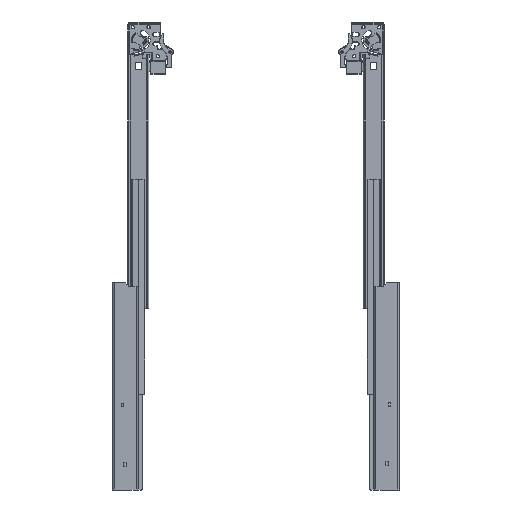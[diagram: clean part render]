
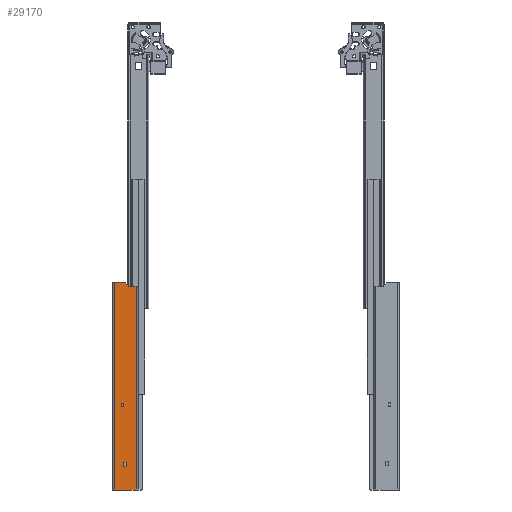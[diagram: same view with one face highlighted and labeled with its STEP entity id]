
A CAD part, front view. The second image highlights one B-rep face of the part: STEP entity #29170.
In plain terms, the highlighted planar face has unit normal (0, -1, 0).
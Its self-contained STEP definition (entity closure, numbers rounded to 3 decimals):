
#803=FACE_BOUND('',#5961,.T.);
#804=FACE_BOUND('',#5962,.T.);
#1123=CIRCLE('',#31069,2.);
#1125=CIRCLE('',#31073,2.);
#4092=FACE_OUTER_BOUND('',#5960,.T.);
#5960=EDGE_LOOP('',(#18655,#18656,#18657,#18658,#18659,#18660,#18661,#18662));
#5961=EDGE_LOOP('',(#18663,#18664,#18665,#18666));
#5962=EDGE_LOOP('',(#18667,#18668,#18669,#18670));
#8115=LINE('',#45056,#10025);
#8119=LINE('',#45064,#10029);
#8122=LINE('',#45070,#10032);
#8125=LINE('',#45075,#10035);
#8127=LINE('',#45081,#10037);
#8131=LINE('',#45089,#10041);
#8134=LINE('',#45095,#10044);
#8137=LINE('',#45100,#10047);
#8157=LINE('',#45160,#10067);
#8173=LINE('',#45207,#10083);
#8176=LINE('',#45217,#10086);
#8178=LINE('',#45223,#10088);
#8179=LINE('',#45225,#10089);
#8180=LINE('',#45226,#10090);
#10025=VECTOR('',#35080,5.);
#10029=VECTOR('',#35086,3.);
#10032=VECTOR('',#35091,5.);
#10035=VECTOR('',#35096,3.);
#10037=VECTOR('',#35102,6.);
#10041=VECTOR('',#35108,3.5);
#10044=VECTOR('',#35113,6.);
#10047=VECTOR('',#35118,3.5);
#10067=VECTOR('',#35174,5.414);
#10083=VECTOR('',#35216,9.672);
#10086=VECTOR('',#35225,285.);
#10088=VECTOR('',#35231,14.172);
#10089=VECTOR('',#35232,290.);
#10090=VECTOR('',#35233,30.5);
#11935=VERTEX_POINT('',#45054);
#11936=VERTEX_POINT('',#45055);
#11939=VERTEX_POINT('',#45063);
#11941=VERTEX_POINT('',#45069);
#11943=VERTEX_POINT('',#45079);
#11944=VERTEX_POINT('',#45080);
#11947=VERTEX_POINT('',#45088);
#11949=VERTEX_POINT('',#45094);
#11969=VERTEX_POINT('',#45150);
#11970=VERTEX_POINT('',#45152);
#11972=VERTEX_POINT('',#45158);
#11974=VERTEX_POINT('',#45164);
#11990=VERTEX_POINT('',#45206);
#11994=VERTEX_POINT('',#45216);
#11996=VERTEX_POINT('',#45222);
#11997=VERTEX_POINT('',#45224);
#14387=EDGE_CURVE('',#11935,#11936,#8115,.T.);
#14391=EDGE_CURVE('',#11936,#11939,#8119,.T.);
#14394=EDGE_CURVE('',#11939,#11941,#8122,.T.);
#14397=EDGE_CURVE('',#11941,#11935,#8125,.T.);
#14399=EDGE_CURVE('',#11943,#11944,#8127,.T.);
#14403=EDGE_CURVE('',#11944,#11947,#8131,.T.);
#14406=EDGE_CURVE('',#11947,#11949,#8134,.T.);
#14409=EDGE_CURVE('',#11949,#11943,#8137,.T.);
#14434=EDGE_CURVE('',#11969,#11970,#1123,.T.);
#14438=EDGE_CURVE('',#11969,#11972,#8157,.T.);
#14441=EDGE_CURVE('',#11974,#11972,#1125,.T.);
#14461=EDGE_CURVE('',#11990,#11970,#8173,.T.);
#14466=EDGE_CURVE('',#11990,#11994,#8176,.T.);
#14469=EDGE_CURVE('',#11996,#11974,#8178,.T.);
#14470=EDGE_CURVE('',#11996,#11997,#8179,.T.);
#14471=EDGE_CURVE('',#11994,#11997,#8180,.T.);
#18655=ORIENTED_EDGE('',*,*,#14441,.F.);
#18656=ORIENTED_EDGE('',*,*,#14469,.F.);
#18657=ORIENTED_EDGE('',*,*,#14470,.T.);
#18658=ORIENTED_EDGE('',*,*,#14471,.F.);
#18659=ORIENTED_EDGE('',*,*,#14466,.F.);
#18660=ORIENTED_EDGE('',*,*,#14461,.T.);
#18661=ORIENTED_EDGE('',*,*,#14434,.F.);
#18662=ORIENTED_EDGE('',*,*,#14438,.T.);
#18663=ORIENTED_EDGE('',*,*,#14387,.T.);
#18664=ORIENTED_EDGE('',*,*,#14391,.T.);
#18665=ORIENTED_EDGE('',*,*,#14394,.T.);
#18666=ORIENTED_EDGE('',*,*,#14397,.T.);
#18667=ORIENTED_EDGE('',*,*,#14399,.T.);
#18668=ORIENTED_EDGE('',*,*,#14403,.T.);
#18669=ORIENTED_EDGE('',*,*,#14406,.T.);
#18670=ORIENTED_EDGE('',*,*,#14409,.T.);
#26849=PLANE('',#31088);
#29170=ADVANCED_FACE('',(#4092,#803,#804),#26849,.T.);
#31069=AXIS2_PLACEMENT_3D('',#45153,#35167,#35168);
#31073=AXIS2_PLACEMENT_3D('',#45166,#35180,#35181);
#31088=AXIS2_PLACEMENT_3D('',#45221,#35229,#35230);
#35080=DIRECTION('',(0.,0.,1.));
#35086=DIRECTION('',(1.,0.,0.));
#35091=DIRECTION('',(0.,0.,-1.));
#35096=DIRECTION('',(-1.,0.,0.));
#35102=DIRECTION('',(0.,0.,1.));
#35108=DIRECTION('',(1.,0.,0.));
#35113=DIRECTION('',(0.,0.,-1.));
#35118=DIRECTION('',(-1.,0.,0.));
#35167=DIRECTION('center_axis',(0.,-1.,0.));
#35168=DIRECTION('ref_axis',(-0.383,0.,-0.924));
#35174=DIRECTION('',(-0.707,0.,0.707));
#35180=DIRECTION('center_axis',(0.,1.,0.));
#35181=DIRECTION('ref_axis',(0.383,0.,0.924));
#35216=DIRECTION('',(-1.,0.,0.));
#35225=DIRECTION('',(0.,0.,-1.));
#35229=DIRECTION('center_axis',(0.,-1.,0.));
#35230=DIRECTION('ref_axis',(-1.,0.,0.));
#35231=DIRECTION('',(1.,0.,0.));
#35232=DIRECTION('',(0.,0.,-1.));
#35233=DIRECTION('',(-1.,0.,0.));
#45054=CARTESIAN_POINT('',(12.,0.,-174.));
#45055=CARTESIAN_POINT('',(12.,0.,-169.));
#45056=CARTESIAN_POINT('',(12.,0.,-84.5));
#45063=CARTESIAN_POINT('',(15.,0.,-169.));
#45064=CARTESIAN_POINT('',(23.75,0.,-169.));
#45069=CARTESIAN_POINT('',(15.,0.,-174.));
#45070=CARTESIAN_POINT('',(15.,0.,-87.));
#45075=CARTESIAN_POINT('',(22.25,0.,-174.));
#45079=CARTESIAN_POINT('',(15.,0.,-257.));
#45080=CARTESIAN_POINT('',(15.,0.,-251.));
#45081=CARTESIAN_POINT('',(15.,0.,-125.5));
#45088=CARTESIAN_POINT('',(18.5,0.,-251.));
#45089=CARTESIAN_POINT('',(25.5,0.,-251.));
#45094=CARTESIAN_POINT('',(18.5,0.,-257.));
#45095=CARTESIAN_POINT('',(18.5,0.,-128.5));
#45100=CARTESIAN_POINT('',(23.75,0.,-257.));
#45150=CARTESIAN_POINT('',(21.414,0.,-4.414));
#45152=CARTESIAN_POINT('',(22.828,0.,-5.));
#45153=CARTESIAN_POINT('Origin',(22.828,0.,
-3.));
#45158=CARTESIAN_POINT('',(17.586,0.,-0.586));
#45160=CARTESIAN_POINT('',(23.375,0.,-6.375));
#45164=CARTESIAN_POINT('',(16.172,0.,0.));
#45166=CARTESIAN_POINT('Origin',(16.172,0.,
-2.));
#45206=CARTESIAN_POINT('',(32.5,0.,-5.));
#45207=CARTESIAN_POINT('',(35.75,0.,-5.));
#45216=CARTESIAN_POINT('',(32.5,0.,-290.));
#45217=CARTESIAN_POINT('',(32.5,0.,0.));
#45221=CARTESIAN_POINT('Origin',(32.5,0.,0.));
#45222=CARTESIAN_POINT('',(2.,0.,0.));
#45223=CARTESIAN_POINT('',(2.,0.,0.));
#45224=CARTESIAN_POINT('',(2.,0.,-290.));
#45225=CARTESIAN_POINT('',(2.,0.,0.));
#45226=CARTESIAN_POINT('',(2.,0.,-290.));
